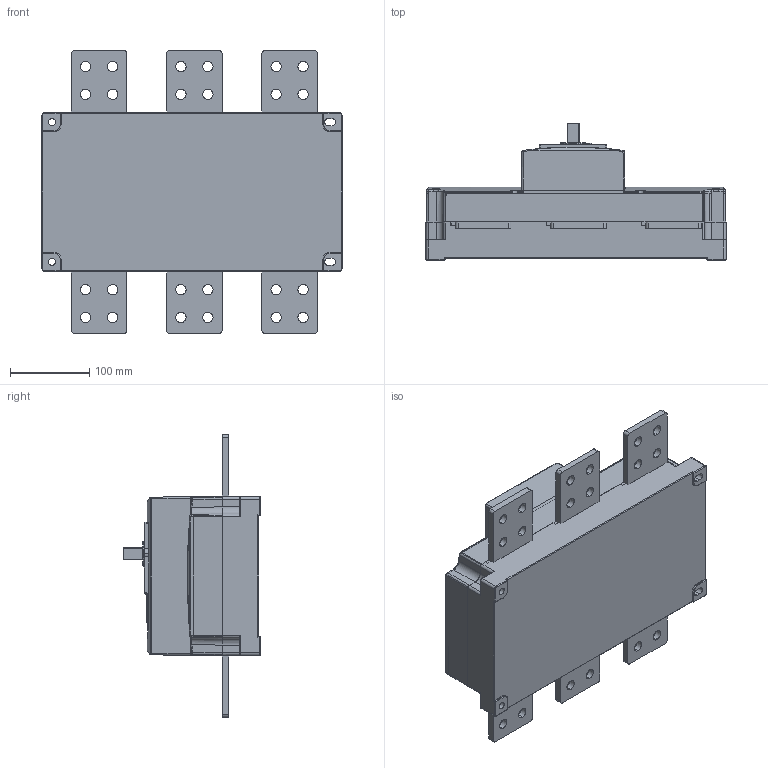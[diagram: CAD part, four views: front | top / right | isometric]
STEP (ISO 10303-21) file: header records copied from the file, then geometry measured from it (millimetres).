
FILE_DESCRIPTION((''),'2;1');
FILE_NAME('NH40-1250-3_2020_10__ASM','2021-04-15T',('zhuanghy'),(''),'PRO/ENGINEER BY PARAMETRIC TECHNOLOGY CORPORATION, 2008380','PRO/ENGINEER BY PARAMETRIC TECHNOLOGY CORPORATION, 2008380','');
FILE_SCHEMA(('CONFIG_CONTROL_DESIGN'));
Length unit declared in the file: millimetre
Products named in the file (9): NH40-1600-3-022_40; 1600-3-ZG_23_1; 1600-G_1_1; NH40-1000JINGCHUTOU_67; NH40-1600BOCHA_100; NH40-1000-3_ASM_1_ASM_ASM_ASM; NH40-1250-3_ASM_ASM_ASM; NH40-1250-3_ASM_ASM; NH40-1250-3_2020_10__ASM
Assembly tree (13 placements, depth 5):
  NH40-1250-3_2020_10__ASM
    NH40-1250-3_ASM_ASM
      NH40-1250-3_ASM_ASM_ASM
        NH40-1000-3_ASM_1_ASM_ASM_ASM
          NH40-1600-3-022_40
          1600-3-ZG_23_1
          1600-G_1_1
          NH40-1000JINGCHUTOU_67  x6
          NH40-1600BOCHA_100
Bounding box: 378 x 172 x 356 mm (x, y, z)
Volume: 10505350.2 mm3; surface area: 860143.7 mm2
Topology: 10 solids, 38 shells, 1380 faces, 3630 edges, 2312 vertices
Faces by surface type: plane 601, cylinder 508, torus 114, bspline 94, sphere 43, cone 20
Entity records: 48768 total; most frequent: CARTESIAN_POINT 18000, ORIENTED_EDGE 6548, DIRECTION 6234, EDGE_CURVE 3274, AXIS2_PLACEMENT_3D 2267, VERTEX_POINT 2102, VECTOR 1700, LINE 1700
